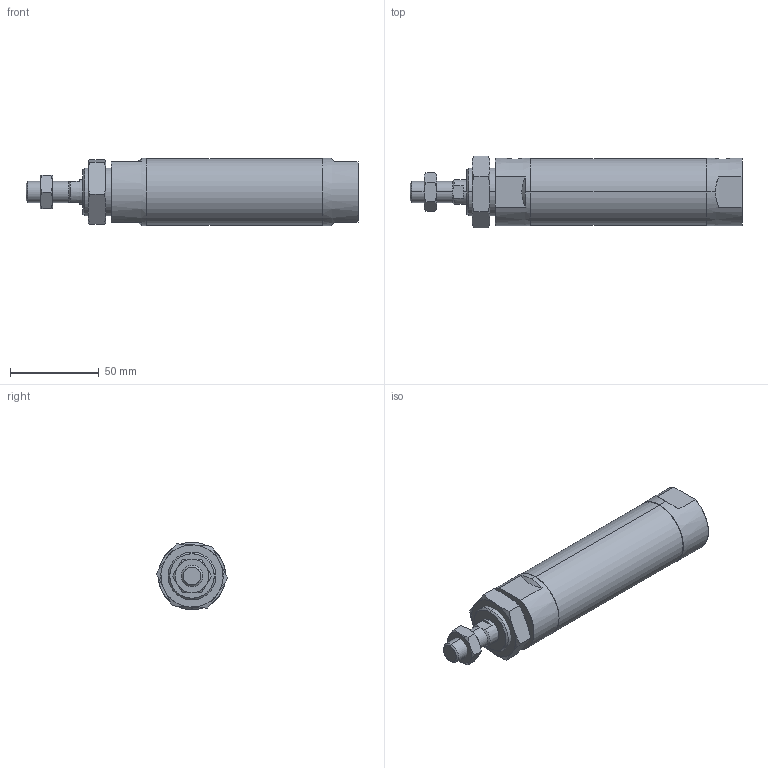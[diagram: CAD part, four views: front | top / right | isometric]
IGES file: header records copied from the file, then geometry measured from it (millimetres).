
Start section: SolidWorks IGES file using analytic representation for surfaces
Global section: file name: C:\Users\Toshiba\Desktop\JGND2-32-50-N.IGS; native system: SolidWorks 2014; preprocessor: SolidWorks 2014; author: Toshiba; date: 160804.104835; units: millimetre
Bounding box: 187 x 40.33 x 38 mm (x, y, z)
Surface area: 26622.2 mm2 (no closed solid volume)
Topology: 0 solids, 0 shells, 89 faces, 1572 edges, 1568 vertices
Faces by surface type: bspline 56, revolution 33
